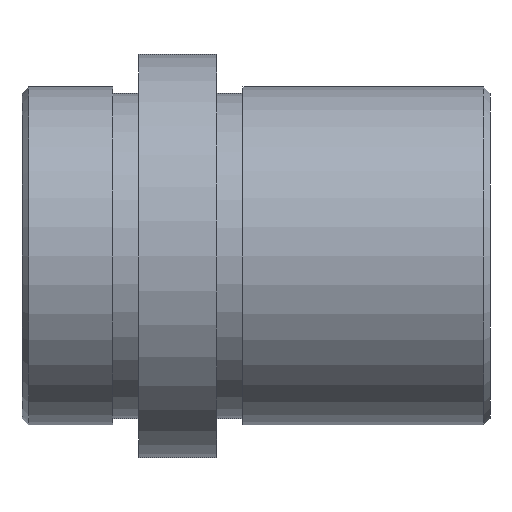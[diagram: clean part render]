
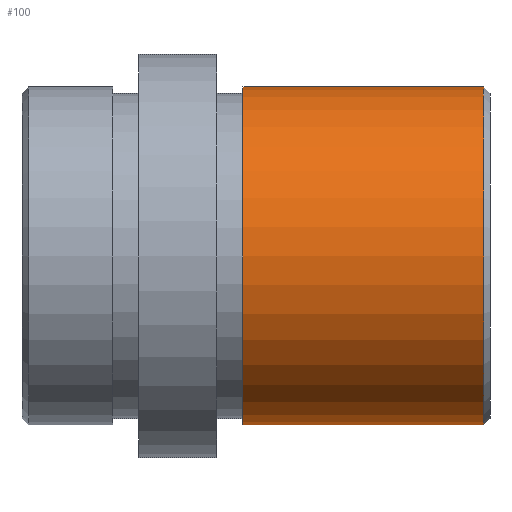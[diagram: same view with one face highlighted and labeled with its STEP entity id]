
A CAD part, front view. The second image highlights one B-rep face of the part: STEP entity #100.
In plain terms, the highlighted face is a revolution surface.
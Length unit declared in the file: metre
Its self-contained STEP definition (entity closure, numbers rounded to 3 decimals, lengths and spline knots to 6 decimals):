
#100 = ADVANCED_FACE( '', ( #157 ), #158, .F. );
#157 = FACE_OUTER_BOUND( '', #250, .T. );
#158 = SURFACE_OF_REVOLUTION( '', #251, #252 );
#250 = EDGE_LOOP( '', ( #419, #420, #421, #422 ) );
#251 = B_SPLINE_CURVE_WITH_KNOTS( '', 1, ( #423, #424 ), .UNSPECIFIED., .F., .F., ( 2, 2 ), ( -10000., 10000. ), .UNSPECIFIED. );
#252 = AXIS1_PLACEMENT( '', #425, #426 );
#419 = ORIENTED_EDGE( '', *, *, #492, .T. );
#420 = ORIENTED_EDGE( '', *, *, #490, .T. );
#421 = ORIENTED_EDGE( '', *, *, #445, .F. );
#422 = ORIENTED_EDGE( '', *, *, #489, .T. );
#423 = CARTESIAN_POINT( '', ( 10000.0355, 0., 0.013 ) );
#424 = CARTESIAN_POINT( '', ( -9999.9645, 0., 0.013 ) );
#425 = CARTESIAN_POINT( '', ( 0., 0., 0. ) );
#426 = DIRECTION( '', ( 1., 0., 0. ) );
#445 = EDGE_CURVE( '', #499, #500, #501, .T. );
#489 = EDGE_CURVE( '', #499, #571, #572, .F. );
#490 = EDGE_CURVE( '', #573, #500, #574, .T. );
#492 = EDGE_CURVE( '', #571, #573, #576, .T. );
#499 = VERTEX_POINT( '', #583 );
#500 = VERTEX_POINT( '', #584 );
#501 = CIRCLE( '', #585, 0.013 );
#571 = VERTEX_POINT( '', #671 );
#572 = LINE( '', #672, #673 );
#573 = VERTEX_POINT( '', #674 );
#574 = LINE( '', #675, #676 );
#576 = CIRCLE( '', #678, 0.013 );
#583 = CARTESIAN_POINT( '', ( 0.017, 0., -0.013 ) );
#584 = CARTESIAN_POINT( '', ( 0.017, 0., 0.013 ) );
#585 = AXIS2_PLACEMENT_3D( '', #689, #690, #691 );
#671 = CARTESIAN_POINT( '', ( 0.0355, 0., -0.013 ) );
#672 = CARTESIAN_POINT( '', ( 0.0355, 0., -0.013 ) );
#673 = VECTOR( '', #789, 1. );
#674 = CARTESIAN_POINT( '', ( 0.0355, 0., 0.013 ) );
#675 = CARTESIAN_POINT( '', ( 0.0355, 0., 0.013 ) );
#676 = VECTOR( '', #790, 1. );
#678 = AXIS2_PLACEMENT_3D( '', #794, #795, #796 );
#689 = CARTESIAN_POINT( '', ( 0.017, 0., 0. ) );
#690 = DIRECTION( '', ( -1., 0., 0. ) );
#691 = DIRECTION( '', ( 0., 0., 1. ) );
#789 = DIRECTION( '', ( -1., 0., 0. ) );
#790 = DIRECTION( '', ( -1., 0., 0. ) );
#794 = CARTESIAN_POINT( '', ( 0.0355, 0., 0. ) );
#795 = DIRECTION( '', ( -1., 0., 0. ) );
#796 = DIRECTION( '', ( 0., 0., 1. ) );
